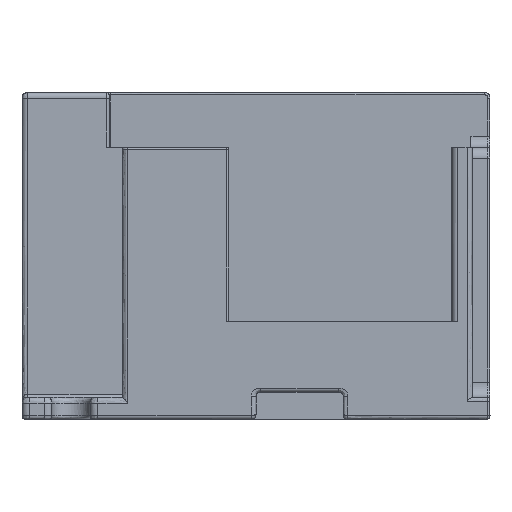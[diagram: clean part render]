
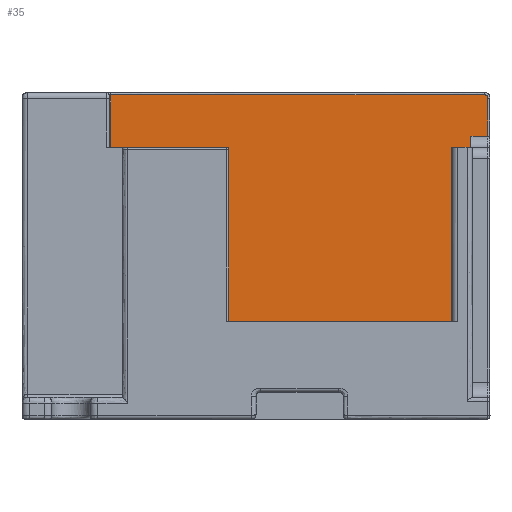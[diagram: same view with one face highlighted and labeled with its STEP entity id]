
A CAD part, left-side view. The second image highlights one B-rep face of the part: STEP entity #35.
In plain terms, the highlighted planar face has unit normal (-1, 0, 0).
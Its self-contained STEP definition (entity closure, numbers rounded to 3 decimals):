
#35=ADVANCED_FACE('',(#723),#10375,.T.);
#723=FACE_OUTER_BOUND('',#1411,.T.);
#1411=EDGE_LOOP('',(#2299,#2300,#2301,#2302,#2303,#2304,#2305,#2306,#2307,
#2308));
#2299=ORIENTED_EDGE('',*,*,#5562,.T.);
#2300=ORIENTED_EDGE('',*,*,#5559,.F.);
#2301=ORIENTED_EDGE('',*,*,#5557,.F.);
#2302=ORIENTED_EDGE('',*,*,#5563,.T.);
#2303=ORIENTED_EDGE('',*,*,#5564,.T.);
#2304=ORIENTED_EDGE('',*,*,#5565,.T.);
#2305=ORIENTED_EDGE('',*,*,#5567,.T.);
#2306=ORIENTED_EDGE('',*,*,#5538,.F.);
#2307=ORIENTED_EDGE('',*,*,#5573,.T.);
#2308=ORIENTED_EDGE('',*,*,#5566,.T.);
#5538=EDGE_CURVE('',#8956,#8957,#7309,.T.);
#5557=EDGE_CURVE('',#8979,#8981,#7323,.T.);
#5559=EDGE_CURVE('',#8981,#8982,#7324,.T.);
#5562=EDGE_CURVE('',#8984,#8982,#7327,.T.);
#5563=EDGE_CURVE('',#8979,#8985,#7328,.T.);
#5564=EDGE_CURVE('',#8985,#8986,#7329,.T.);
#5565=EDGE_CURVE('',#8986,#8987,#7330,.T.);
#5566=EDGE_CURVE('',#8988,#8984,#7331,.T.);
#5567=EDGE_CURVE('',#8987,#8957,#7332,.T.);
#5573=EDGE_CURVE('',#8956,#8988,#7170,.T.);
#7170=(
BOUNDED_CURVE()
B_SPLINE_CURVE(2,(#33622,#33623,#33624),.UNSPECIFIED.,.F.,.F.)
B_SPLINE_CURVE_WITH_KNOTS((3,3),(-0.4,0.),.UNSPECIFIED.)
CURVE()
GEOMETRIC_REPRESENTATION_ITEM()
RATIONAL_B_SPLINE_CURVE((1.,0.707,1.))
REPRESENTATION_ITEM('')
);
#7309=B_SPLINE_CURVE_WITH_KNOTS('',1,(#33521,#33522),.UNSPECIFIED.,.F.,
 .F.,(2,2),(-10.659,0.),.UNSPECIFIED.);
#7323=B_SPLINE_CURVE_WITH_KNOTS('',1,(#33577,#33578),.UNSPECIFIED.,.F.,
 .F.,(2,2),(0.,1.55),.UNSPECIFIED.);
#7324=B_SPLINE_CURVE_WITH_KNOTS('',1,(#33582,#33583),.UNSPECIFIED.,.F.,
 .F.,(2,2),(-19.8,0.),.UNSPECIFIED.);
#7327=B_SPLINE_CURVE_WITH_KNOTS('',1,(#33588,#33589),.UNSPECIFIED.,.F.,
 .F.,(2,2),(0.,22.249),.UNSPECIFIED.);
#7328=B_SPLINE_CURVE_WITH_KNOTS('',1,(#33590,#33591),.UNSPECIFIED.,.F.,
 .F.,(2,2),(0.,3.47),.UNSPECIFIED.);
#7329=B_SPLINE_CURVE_WITH_KNOTS('',3,(#33592,#33593,#33594,#33595,#33596,
#33597,#33598,#33599,#33600,#33601,#33602,#33603,#33604,#33605),
 .UNSPECIFIED.,.F.,.F.,(4,1,1,1,1,1,1,1,1,1,1,4),(0.,0.051,
0.102,0.152,0.203,0.254,
0.305,0.355,0.406,0.457,0.508,
0.558),.UNSPECIFIED.);
#7330=B_SPLINE_CURVE_WITH_KNOTS('',1,(#33606,#33607),.UNSPECIFIED.,.F.,
 .F.,(2,2),(0.,34.328),.UNSPECIFIED.);
#7331=B_SPLINE_CURVE_WITH_KNOTS('',1,(#33608,#33609),.UNSPECIFIED.,.F.,
 .F.,(2,2),(0.,18.6),.UNSPECIFIED.);
#7332=B_SPLINE_CURVE_WITH_KNOTS('',1,(#33610,#33611),.UNSPECIFIED.,.F.,
 .F.,(2,2),(-4.803,0.),.UNSPECIFIED.);
#8956=VERTEX_POINT('',#32374);
#8957=VERTEX_POINT('',#32375);
#8979=VERTEX_POINT('',#32397);
#8981=VERTEX_POINT('',#32399);
#8982=VERTEX_POINT('',#32400);
#8984=VERTEX_POINT('',#32402);
#8985=VERTEX_POINT('',#32403);
#8986=VERTEX_POINT('',#32404);
#8987=VERTEX_POINT('',#32405);
#8988=VERTEX_POINT('',#32406);
#10375=PLANE('',#10576);
#10576=AXIS2_PLACEMENT_3D('',#11196,#10760,$);
#10760=DIRECTION('',(-1.,0.,0.));
#11196=CARTESIAN_POINT('',(529.25,-254.55,-61.417));
#32374=CARTESIAN_POINT('',(529.25,-268.932,-40.));
#32375=CARTESIAN_POINT('',(529.25,-258.273,-40.003));
#32397=CARTESIAN_POINT('',(529.25,-292.932,-39.));
#32399=CARTESIAN_POINT('',(529.25,-291.382,-39.));
#32400=CARTESIAN_POINT('',(529.25,-291.381,-58.8));
#32402=CARTESIAN_POINT('',(529.25,-269.132,-58.8));
#32403=CARTESIAN_POINT('',(529.25,-292.932,-35.53));
#32404=CARTESIAN_POINT('',(529.25,-292.602,-35.2));
#32405=CARTESIAN_POINT('',(529.25,-258.273,-35.2));
#32406=CARTESIAN_POINT('',(529.25,-269.132,-40.2));
#33521=CARTESIAN_POINT('',(529.25,-268.932,-40.));
#33522=CARTESIAN_POINT('',(529.25,-258.273,-40.003));
#33577=CARTESIAN_POINT('',(529.25,-292.932,-39.));
#33578=CARTESIAN_POINT('',(529.25,-291.382,-39.));
#33582=CARTESIAN_POINT('',(529.25,-291.382,-39.));
#33583=CARTESIAN_POINT('',(529.25,-291.381,-58.8));
#33588=CARTESIAN_POINT('',(529.25,-269.132,-58.8));
#33589=CARTESIAN_POINT('',(529.25,-291.381,-58.8));
#33590=CARTESIAN_POINT('',(529.25,-292.932,-39.));
#33591=CARTESIAN_POINT('',(529.25,-292.932,-35.53));
#33592=CARTESIAN_POINT('',(529.25,-292.932,-35.53));
#33593=CARTESIAN_POINT('',(529.25,-292.932,-35.51));
#33594=CARTESIAN_POINT('',(529.25,-292.932,-35.471));
#33595=CARTESIAN_POINT('',(529.25,-292.928,-35.414));
#33596=CARTESIAN_POINT('',(529.25,-292.919,-35.365));
#33597=CARTESIAN_POINT('',(529.25,-292.903,-35.322));
#33598=CARTESIAN_POINT('',(529.25,-292.879,-35.283));
#33599=CARTESIAN_POINT('',(529.25,-292.849,-35.253));
#33600=CARTESIAN_POINT('',(529.25,-292.81,-35.229));
#33601=CARTESIAN_POINT('',(529.25,-292.768,-35.213));
#33602=CARTESIAN_POINT('',(529.25,-292.718,-35.204));
#33603=CARTESIAN_POINT('',(529.25,-292.662,-35.2));
#33604=CARTESIAN_POINT('',(529.25,-292.622,-35.2));
#33605=CARTESIAN_POINT('',(529.25,-292.602,-35.2));
#33606=CARTESIAN_POINT('',(529.25,-292.602,-35.2));
#33607=CARTESIAN_POINT('',(529.25,-258.273,-35.2));
#33608=CARTESIAN_POINT('',(529.25,-269.132,-40.2));
#33609=CARTESIAN_POINT('',(529.25,-269.132,-58.8));
#33610=CARTESIAN_POINT('',(529.25,-258.273,-35.2));
#33611=CARTESIAN_POINT('',(529.25,-258.273,-40.003));
#33622=CARTESIAN_POINT('',(529.25,-268.932,-40.));
#33623=CARTESIAN_POINT('',(529.25,-269.132,-40.));
#33624=CARTESIAN_POINT('',(529.25,-269.132,-40.2));
